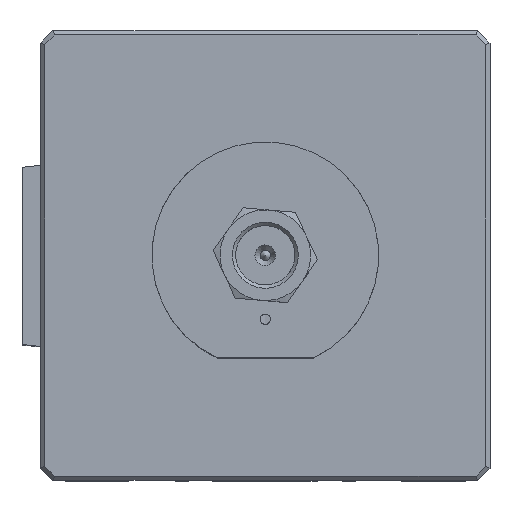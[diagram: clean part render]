
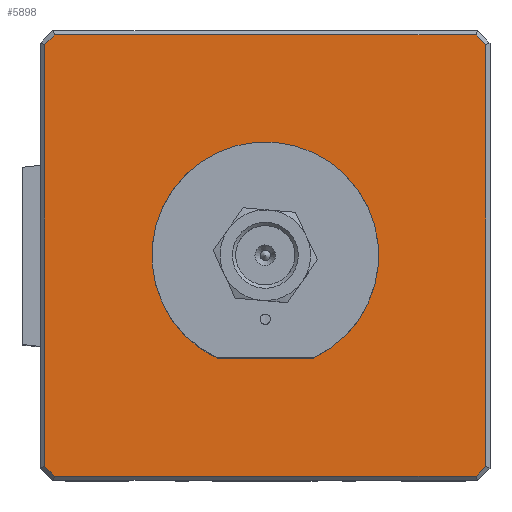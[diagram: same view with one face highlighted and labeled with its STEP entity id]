
A CAD part, top view. The second image highlights one B-rep face of the part: STEP entity #5898.
In plain terms, the highlighted planar face has unit normal (0, 0, 1).
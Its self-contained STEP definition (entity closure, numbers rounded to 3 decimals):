
#319=FACE_BOUND('',#1092,.T.);
#407=CIRCLE('',#6311,27.5);
#419=CIRCLE('',#6341,74.);
#420=CIRCLE('',#6342,74.);
#421=CIRCLE('',#6343,74.);
#422=CIRCLE('',#6344,74.);
#738=FACE_OUTER_BOUND('',#1091,.T.);
#1091=EDGE_LOOP('',(#4266,#4267,#4268,#4269,#4270,#4271,#4272,#4273));
#1092=EDGE_LOOP('',(#4274,#4275));
#1433=LINE('',#9488,#1928);
#1437=LINE('',#9510,#1932);
#1438=LINE('',#9514,#1933);
#1439=LINE('',#9518,#1934);
#1440=LINE('',#9522,#1935);
#1928=VECTOR('',#7225,10.);
#1932=VECTOR('',#7253,10.);
#1933=VECTOR('',#7256,10.);
#1934=VECTOR('',#7259,10.);
#1935=VECTOR('',#7262,10.);
#2480=VERTEX_POINT('',#9376);
#2481=VERTEX_POINT('',#9378);
#2497=VERTEX_POINT('',#9508);
#2498=VERTEX_POINT('',#9509);
#2499=VERTEX_POINT('',#9511);
#2500=VERTEX_POINT('',#9513);
#2501=VERTEX_POINT('',#9515);
#2502=VERTEX_POINT('',#9517);
#2503=VERTEX_POINT('',#9519);
#2504=VERTEX_POINT('',#9521);
#3140=EDGE_CURVE('',#2481,#2480,#407,.T.);
#3160=EDGE_CURVE('',#2480,#2481,#1433,.T.);
#3168=EDGE_CURVE('',#2497,#2498,#1437,.T.);
#3169=EDGE_CURVE('',#2499,#2497,#419,.T.);
#3170=EDGE_CURVE('',#2500,#2499,#1438,.T.);
#3171=EDGE_CURVE('',#2501,#2500,#420,.T.);
#3172=EDGE_CURVE('',#2502,#2501,#1439,.T.);
#3173=EDGE_CURVE('',#2503,#2502,#421,.T.);
#3174=EDGE_CURVE('',#2504,#2503,#1440,.T.);
#3175=EDGE_CURVE('',#2498,#2504,#422,.T.);
#4266=ORIENTED_EDGE('',*,*,#3168,.F.);
#4267=ORIENTED_EDGE('',*,*,#3169,.F.);
#4268=ORIENTED_EDGE('',*,*,#3170,.F.);
#4269=ORIENTED_EDGE('',*,*,#3171,.F.);
#4270=ORIENTED_EDGE('',*,*,#3172,.F.);
#4271=ORIENTED_EDGE('',*,*,#3173,.F.);
#4272=ORIENTED_EDGE('',*,*,#3174,.F.);
#4273=ORIENTED_EDGE('',*,*,#3175,.F.);
#4274=ORIENTED_EDGE('',*,*,#3140,.T.);
#4275=ORIENTED_EDGE('',*,*,#3160,.T.);
#5693=PLANE('',#6340);
#5898=ADVANCED_FACE('',(#738,#319),#5693,.T.);
#6311=AXIS2_PLACEMENT_3D('',#9379,#7181,#7182);
#6340=AXIS2_PLACEMENT_3D('',#9507,#7251,#7252);
#6341=AXIS2_PLACEMENT_3D('',#9512,#7254,#7255);
#6342=AXIS2_PLACEMENT_3D('',#9516,#7257,#7258);
#6343=AXIS2_PLACEMENT_3D('',#9520,#7260,#7261);
#6344=AXIS2_PLACEMENT_3D('',#9523,#7263,#7264);
#7181=DIRECTION('center_axis',(0.,0.,
-1.));
#7182=DIRECTION('ref_axis',(0.,-1.,0.));
#7225=DIRECTION('',(-1.,0.,0.));
#7251=DIRECTION('center_axis',(0.,0.,
1.));
#7252=DIRECTION('ref_axis',(1.,0.,0.));
#7253=DIRECTION('',(-1.,0.,0.));
#7254=DIRECTION('center_axis',(0.,0.,
-1.));
#7255=DIRECTION('ref_axis',(1.,0.,0.));
#7256=DIRECTION('',(0.,-1.,0.));
#7257=DIRECTION('center_axis',(0.,0.,
-1.));
#7258=DIRECTION('ref_axis',(1.,0.,0.));
#7259=DIRECTION('',(1.,0.,0.));
#7260=DIRECTION('center_axis',(0.,0.,
-1.));
#7261=DIRECTION('ref_axis',(-1.,0.,0.));
#7262=DIRECTION('',(0.,1.,0.));
#7263=DIRECTION('center_axis',(0.,0.,
-1.));
#7264=DIRECTION('ref_axis',(-1.,0.,0.));
#9376=CARTESIAN_POINT('',(11.456,-25.,313.049));
#9378=CARTESIAN_POINT('',(-11.456,-25.,313.049));
#9379=CARTESIAN_POINT('Origin',(0.,0.,
313.049));
#9488=CARTESIAN_POINT('',(-15.,-25.,313.049));
#9507=CARTESIAN_POINT('Origin',(0.,0.,
313.049));
#9508=CARTESIAN_POINT('',(51.125,-53.5,313.049));
#9509=CARTESIAN_POINT('',(-51.125,-53.5,313.049));
#9510=CARTESIAN_POINT('',(-25.762,-53.5,313.049));
#9511=CARTESIAN_POINT('',(53.5,-51.125,313.049));
#9512=CARTESIAN_POINT('Origin',(0.,0.,
313.049));
#9513=CARTESIAN_POINT('',(53.5,51.125,313.049));
#9514=CARTESIAN_POINT('',(53.5,-25.762,313.049));
#9515=CARTESIAN_POINT('',(51.125,53.5,313.049));
#9516=CARTESIAN_POINT('Origin',(0.,0.,
313.049));
#9517=CARTESIAN_POINT('',(-51.125,53.5,313.049));
#9518=CARTESIAN_POINT('',(25.762,53.5,313.049));
#9519=CARTESIAN_POINT('',(-53.5,51.125,313.049));
#9520=CARTESIAN_POINT('Origin',(0.,0.,
313.049));
#9521=CARTESIAN_POINT('',(-53.5,-51.125,313.049));
#9522=CARTESIAN_POINT('',(-53.5,25.762,313.049));
#9523=CARTESIAN_POINT('Origin',(0.,0.,
313.049));
